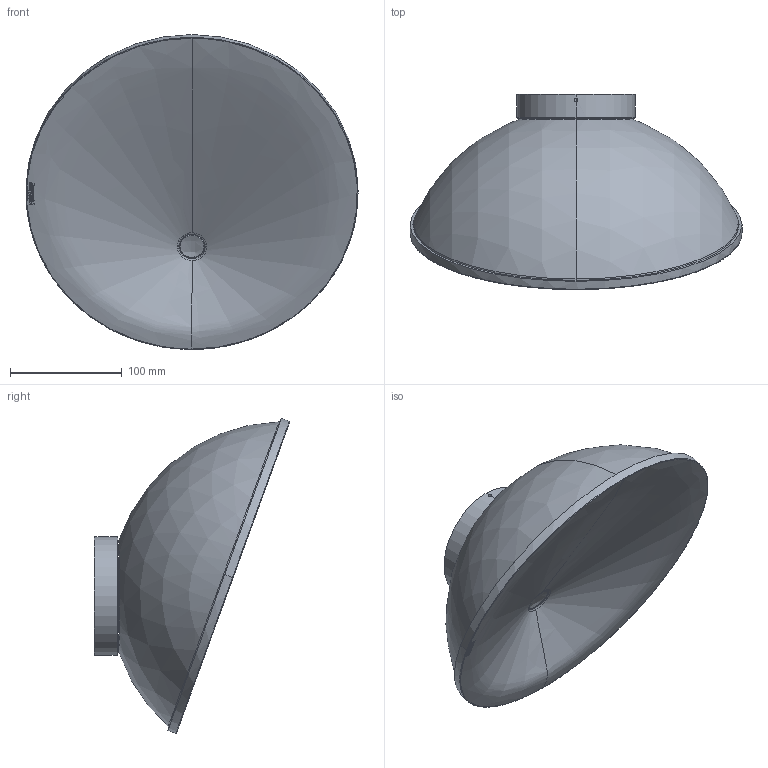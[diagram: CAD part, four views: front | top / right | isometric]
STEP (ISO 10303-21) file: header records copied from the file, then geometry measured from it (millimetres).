
FILE_DESCRIPTION (( 'STEP AP203' ), '1' );
FILE_NAME ('BEEP GRANDE PARETE.STEP', '2020-02-06T14:03:43', ( '' ), ( '' ), 'SwSTEP 2.0', 'SolidWorks 2020', '' );
FILE_SCHEMA (( 'CONFIG_CONTROL_DESIGN' ));
Length unit declared in the file: millimetre
Products named in the file (5): 299D011; BEEP GRANDE PARETE; 299M24; 300P10; 300M28_Con scritte
Assembly tree (4 placements, depth 2):
  BEEP GRANDE PARETE
    299M24
    300M28_Con scritte
    299D011
    300P10
Bounding box: 296.6 x 174.54 x 281.3 mm (x, y, z)
Volume: 539191.5 mm3; surface area: 377512.4 mm2
Topology: 4 solids, 4 shells, 583 faces, 1466 edges, 911 vertices
Faces by surface type: bspline 202, plane 187, cylinder 83, torus 48, cone 37, sphere 26
Entity records: 45255 total; most frequent: CARTESIAN_POINT 32533, ORIENTED_EDGE 2920, DIRECTION 1967, EDGE_CURVE 1460, VERTEX_POINT 911, AXIS2_PLACEMENT_3D 802, B_SPLINE_CURVE_WITH_KNOTS 679, EDGE_LOOP 633
